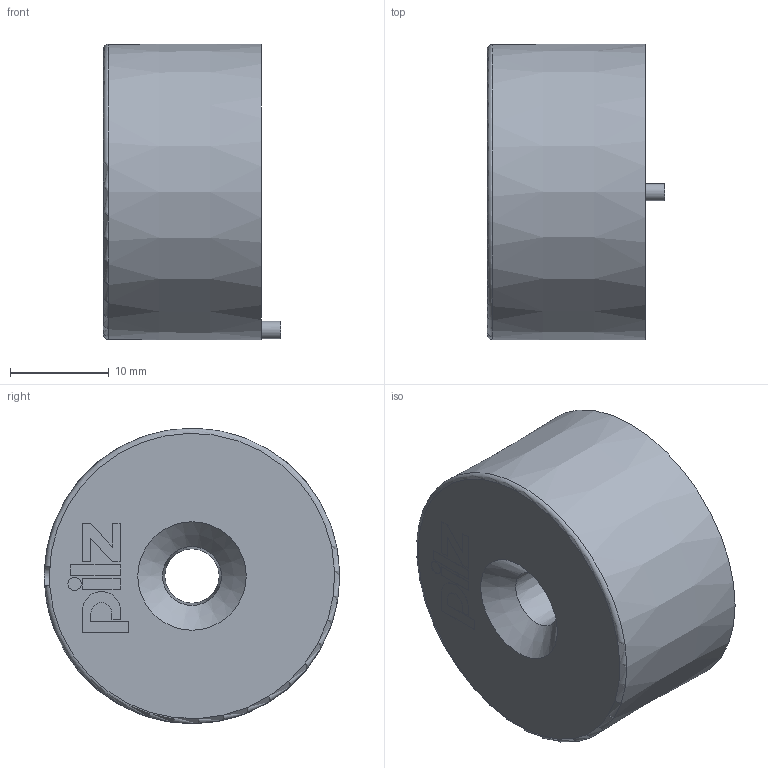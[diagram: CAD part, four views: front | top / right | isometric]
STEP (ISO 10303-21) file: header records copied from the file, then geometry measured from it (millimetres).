
FILE_DESCRIPTION((''),'2;1');
FILE_NAME('E:\Vault Daten\Projektordner\Sensoren\Magnetschalter\Kundendaten\H302973-A_A_D30x16mm.stp','2011-09-19T16:04:02',('pschmucki'),(''),'Autodesk Inventor 2010','Autodesk Inventor 2010','');
FILE_SCHEMA(('CONFIG_CONTROL_DESIGN'));
Length unit declared in the file: millimetre
Products named in the file (1): H302973_PSENma_x.2_Betätiger_Konturvereinfachung_1
Bounding box: 18 x 30 x 30 mm (x, y, z)
Volume: 10610.2 mm3; surface area: 3181.5 mm2
Topology: 1 solids, 1 shells, 61 faces, 150 edges, 100 vertices
Faces by surface type: plane 42, cylinder 14, cone 3, torus 2
Full cylindrical faces by diameter (mm): 1.334 x1, 1.75 x1, 8.2 x1, 11 x1, 25 x1
Entity records: 1774 total; most frequent: CARTESIAN_POINT 337, DIRECTION 286, ORIENTED_EDGE 270, EDGE_CURVE 135, AXIS2_PLACEMENT_3D 97, VERTEX_POINT 95, VECTOR 92, LINE 92
